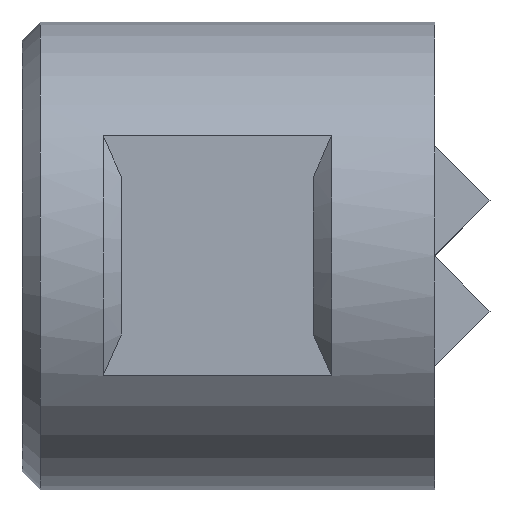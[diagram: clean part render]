
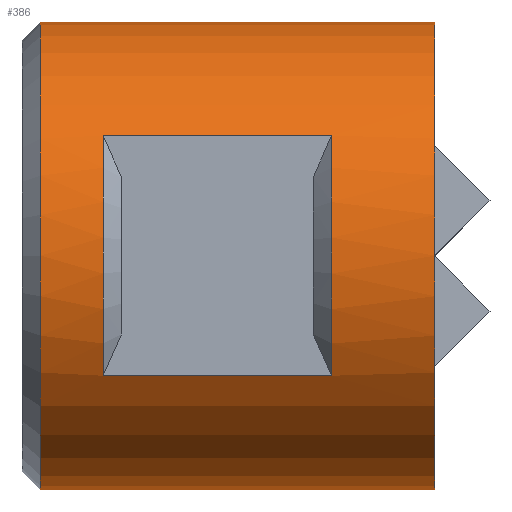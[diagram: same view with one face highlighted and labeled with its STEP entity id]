
A CAD part, top view. The second image highlights one B-rep face of the part: STEP entity #386.
In plain terms, the highlighted cylindrical face has radius 6.35 mm (diameter 12.7 mm), a partial arc.
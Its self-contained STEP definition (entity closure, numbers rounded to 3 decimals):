
#143=AXIS2_PLACEMENT_3D('Circle Axis2P3D',#141,#142,$) ;
#193=AXIS2_PLACEMENT_3D('Circle Axis2P3D',#191,#192,$) ;
#324=AXIS2_PLACEMENT_3D('Cylinder Axis2P3D',#321,#322,#323) ;
#359=AXIS2_PLACEMENT_3D('Circle Axis2P3D',#357,#358,$) ;
#371=AXIS2_PLACEMENT_3D('Circle Axis2P3D',#369,#370,$) ;
#68=CARTESIAN_POINT('Vertex',(8.4,3.259,5.45)) ;
#71=CARTESIAN_POINT('Line Origine',(5.3,3.259,5.45)) ;
#75=CARTESIAN_POINT('Vertex',(2.2,3.259,5.45)) ;
#102=CARTESIAN_POINT('Vertex',(2.2,-3.259,5.45)) ;
#105=CARTESIAN_POINT('Line Origine',(5.3,-3.259,5.45)) ;
#109=CARTESIAN_POINT('Vertex',(8.4,-3.259,5.45)) ;
#141=CARTESIAN_POINT('Axis2P3D Location',(2.2,0.,0.)) ;
#172=CARTESIAN_POINT('Vertex',(0.5,6.35,0.)) ;
#188=CARTESIAN_POINT('Vertex',(0.5,-6.35,0.)) ;
#191=CARTESIAN_POINT('Axis2P3D Location',(0.5,0.,0.)) ;
#321=CARTESIAN_POINT('Axis2P3D Location',(5.6,0.,0.)) ;
#330=CARTESIAN_POINT('Vertex',(11.2,-6.35,0.)) ;
#332=CARTESIAN_POINT('Vertex',(11.2,6.35,0.)) ;
#335=CARTESIAN_POINT('Line Origine',(5.6,-6.35,0.)) ;
#340=CARTESIAN_POINT('Line Origine',(5.6,6.35,0.)) ;
#357=CARTESIAN_POINT('Axis2P3D Location',(8.4,0.,0.)) ;
#369=CARTESIAN_POINT('Axis2P3D Location',(11.2,0.,0.)) ;
#72=DIRECTION('Vector Direction',(1.,0.,0.)) ;
#106=DIRECTION('Vector Direction',(1.,0.,0.)) ;
#142=DIRECTION('Axis2P3D Direction',(1.,0.,0.)) ;
#192=DIRECTION('Axis2P3D Direction',(1.,0.,0.)) ;
#322=DIRECTION('Axis2P3D Direction',(1.,0.,0.)) ;
#323=DIRECTION('Axis2P3D XDirection',(0.,1.,0.)) ;
#336=DIRECTION('Vector Direction',(1.,0.,0.)) ;
#341=DIRECTION('Vector Direction',(1.,0.,0.)) ;
#358=DIRECTION('Axis2P3D Direction',(-1.,0.,0.)) ;
#370=DIRECTION('Axis2P3D Direction',(1.,0.,0.)) ;
#73=VECTOR('Line Direction',#72,1.) ;
#107=VECTOR('Line Direction',#106,1.) ;
#337=VECTOR('Line Direction',#336,1.) ;
#342=VECTOR('Line Direction',#341,1.) ;
#375=ORIENTED_EDGE('',*,*,#373,.F.) ;
#376=ORIENTED_EDGE('',*,*,#344,.F.) ;
#377=ORIENTED_EDGE('',*,*,#195,.T.) ;
#378=ORIENTED_EDGE('',*,*,#339,.T.) ;
#381=ORIENTED_EDGE('',*,*,#361,.F.) ;
#382=ORIENTED_EDGE('',*,*,#111,.F.) ;
#383=ORIENTED_EDGE('',*,*,#145,.F.) ;
#384=ORIENTED_EDGE('',*,*,#77,.F.) ;
#385=FACE_BOUND('',#380,.T.) ;
#386=ADVANCED_FACE('PartBody',(#379,#385),#325,.T.) ;
#144=CIRCLE('generated circle',#143,6.35) ;
#194=CIRCLE('generated circle',#193,6.35) ;
#360=CIRCLE('generated circle',#359,6.35) ;
#372=CIRCLE('generated circle',#371,6.35) ;
#325=CYLINDRICAL_SURFACE('generated cylinder',#324,6.35) ;
#77=EDGE_CURVE('',#69,#76,#74,.F.) ;
#111=EDGE_CURVE('',#103,#110,#108,.T.) ;
#145=EDGE_CURVE('',#76,#103,#144,.T.) ;
#195=EDGE_CURVE('',#173,#189,#194,.T.) ;
#339=EDGE_CURVE('',#189,#331,#338,.T.) ;
#344=EDGE_CURVE('',#173,#333,#343,.T.) ;
#361=EDGE_CURVE('',#110,#69,#360,.T.) ;
#373=EDGE_CURVE('',#333,#331,#372,.T.) ;
#374=EDGE_LOOP('',(#375,#376,#377,#378)) ;
#380=EDGE_LOOP('',(#381,#382,#383,#384)) ;
#379=FACE_OUTER_BOUND('',#374,.T.) ;
#74=LINE('Line',#71,#73) ;
#108=LINE('Line',#105,#107) ;
#338=LINE('Line',#335,#337) ;
#343=LINE('Line',#340,#342) ;
#69=VERTEX_POINT('',#68) ;
#76=VERTEX_POINT('',#75) ;
#103=VERTEX_POINT('',#102) ;
#110=VERTEX_POINT('',#109) ;
#173=VERTEX_POINT('',#172) ;
#189=VERTEX_POINT('',#188) ;
#331=VERTEX_POINT('',#330) ;
#333=VERTEX_POINT('',#332) ;
